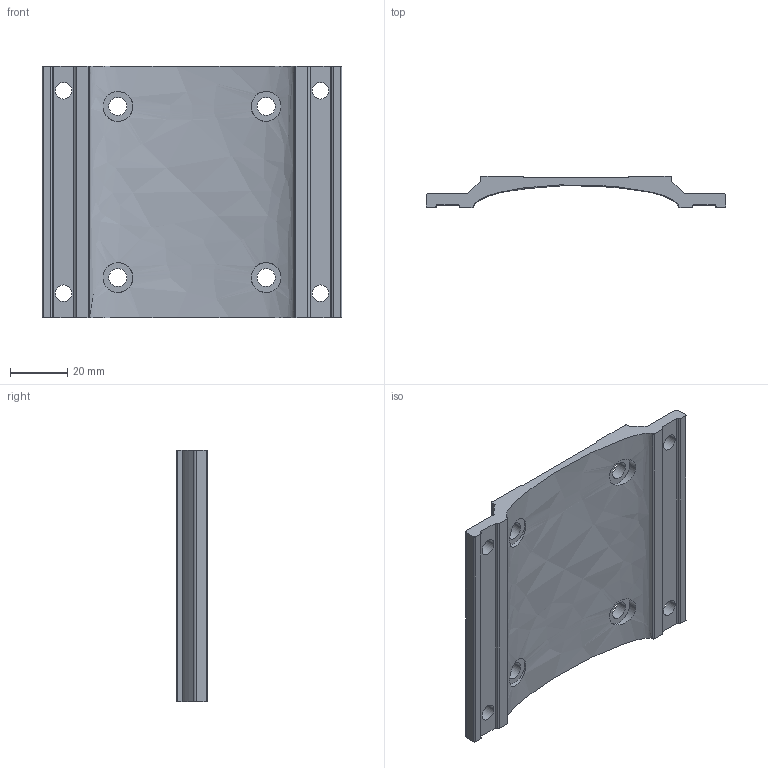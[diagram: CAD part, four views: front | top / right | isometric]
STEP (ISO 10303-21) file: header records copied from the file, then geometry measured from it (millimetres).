
FILE_DESCRIPTION (( 'STEP AP214' ), '1' );
FILE_NAME ('Fuß IG80 2172844.STEP', '2017-08-18T05:29:24', ( 'gfeller' ), ( '' ), 'SwSTEP 2.0', 'SolidWorks 2017', '' );
FILE_SCHEMA (( 'AUTOMOTIVE_DESIGN' ));
Length unit declared in the file: millimetre
Products named in the file (1): Fuß IG80 2172844
Bounding box: 105 x 11 x 88 mm (x, y, z)
Volume: 38915.7 mm3; surface area: 21698.8 mm2
Topology: 1 solids, 1 shells, 66 faces, 180 edges, 120 vertices
Faces by surface type: cylinder 44, plane 21, bspline 1
Entity records: 2491 total; most frequent: CARTESIAN_POINT 694, DIRECTION 382, ORIENTED_EDGE 360, EDGE_CURVE 180, AXIS2_PLACEMENT_3D 146, VERTEX_POINT 120, LINE 90, VECTOR 90
